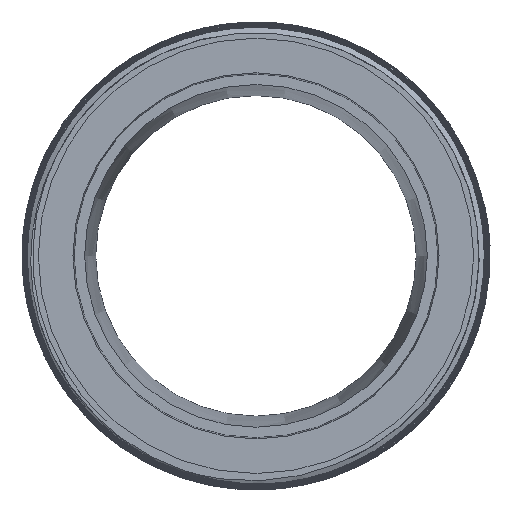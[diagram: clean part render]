
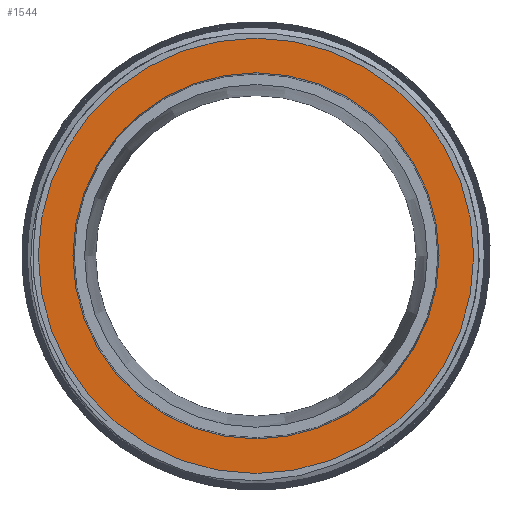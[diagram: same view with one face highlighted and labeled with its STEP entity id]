
A CAD part, left-side view. The second image highlights one B-rep face of the part: STEP entity #1544.
In plain terms, the highlighted planar face has unit normal (-1, 0, 0).
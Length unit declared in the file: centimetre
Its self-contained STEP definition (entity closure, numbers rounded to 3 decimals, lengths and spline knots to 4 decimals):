
#417=PLANE('',#1673);
#499=VERTEX_POINT('',#2461);
#507=VERTEX_POINT('',#2520);
#593=CIRCLE('',#1657,2.3495);
#599=CIRCLE('',#1668,2.794);
#727=EDGE_CURVE('',#499,#499,#593,.T.);
#735=EDGE_CURVE('',#507,#507,#599,.T.);
#1096=ORIENTED_EDGE('',*,*,#727,.T.);
#1097=ORIENTED_EDGE('',*,*,#735,.T.);
#1325=EDGE_LOOP('',(#1096));
#1326=EDGE_LOOP('',(#1097));
#1440=FACE_BOUND('',#1325,.T.);
#1441=FACE_BOUND('',#1326,.T.);
#1544=ADVANCED_FACE('',(#1440,#1441),#417,.T.);
#1657=AXIS2_PLACEMENT_3D('',#2460,#1881,#1882);
#1668=AXIS2_PLACEMENT_3D('',#2519,#1900,#1901);
#1673=AXIS2_PLACEMENT_3D('',#13575,#1910,$);
#1881=DIRECTION('',(1.,0.,0.));
#1882=DIRECTION('',(0.,0.,2.35));
#1900=DIRECTION('',(-1.,0.,0.));
#1901=DIRECTION('',(0.,0.,-2.794));
#1910=DIRECTION('',(-1.,0.,0.));
#2460=CARTESIAN_POINT('',(-5.8879,0.,0.));
#2461=CARTESIAN_POINT('',(-5.8879,0.,2.3495));
#2519=CARTESIAN_POINT('',(-5.8879,0.,0.));
#2520=CARTESIAN_POINT('',(-5.8879,0.,2.794));
#13575=CARTESIAN_POINT('',(-5.8879,0.,-1.432));
